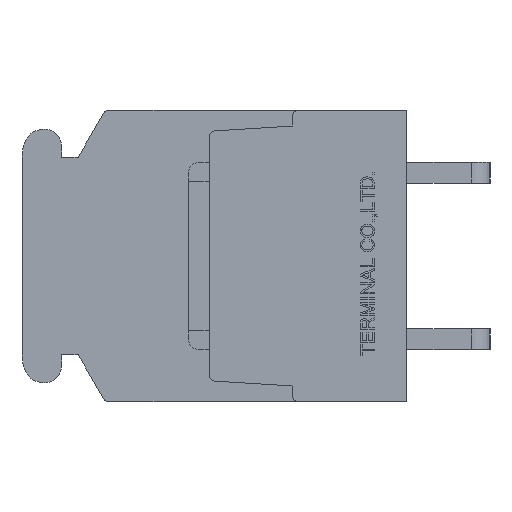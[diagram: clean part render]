
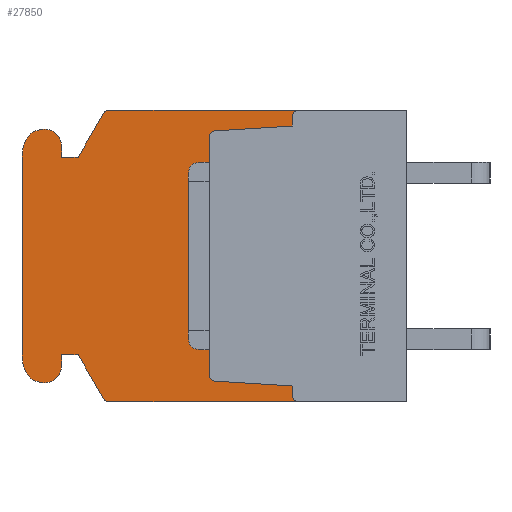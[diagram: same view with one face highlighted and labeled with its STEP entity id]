
A CAD part, left-side view. The second image highlights one B-rep face of the part: STEP entity #27850.
In plain terms, the highlighted planar face has unit normal (-1, 0, 0).
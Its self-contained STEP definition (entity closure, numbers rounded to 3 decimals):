
#519=CIRCLE('',#28262,0.3);
#520=CIRCLE('',#28266,0.3);
#521=CIRCLE('',#28268,0.3);
#522=CIRCLE('',#28272,0.3);
#1093=CIRCLE('',#29945,0.3);
#1094=CIRCLE('',#29946,0.8);
#1095=CIRCLE('',#29947,1.);
#1096=CIRCLE('',#29948,2.);
#1097=CIRCLE('',#29949,2.);
#1098=CIRCLE('',#29950,1.);
#1099=CIRCLE('',#29951,0.8);
#1100=CIRCLE('',#29952,0.3);
#1494=VERTEX_POINT('',#36367);
#1495=VERTEX_POINT('',#36368);
#1848=VERTEX_POINT('',#37889);
#1849=VERTEX_POINT('',#37893);
#1850=VERTEX_POINT('',#37897);
#1851=VERTEX_POINT('',#37901);
#1852=VERTEX_POINT('',#37905);
#1853=VERTEX_POINT('',#37906);
#1854=VERTEX_POINT('',#37911);
#1855=VERTEX_POINT('',#37915);
#3455=VERTEX_POINT('',#42810);
#3490=VERTEX_POINT('',#42917);
#3902=VERTEX_POINT('',#44206);
#3903=VERTEX_POINT('',#44208);
#3904=VERTEX_POINT('',#44210);
#3905=VERTEX_POINT('',#44212);
#3906=VERTEX_POINT('',#44214);
#3907=VERTEX_POINT('',#44216);
#3908=VERTEX_POINT('',#44218);
#3909=VERTEX_POINT('',#44220);
#3910=VERTEX_POINT('',#44222);
#3911=VERTEX_POINT('',#44224);
#3912=VERTEX_POINT('',#44226);
#3913=VERTEX_POINT('',#44228);
#3914=VERTEX_POINT('',#44230);
#3915=VERTEX_POINT('',#44232);
#3916=VERTEX_POINT('',#44234);
#3917=VERTEX_POINT('',#44236);
#4311=VECTOR('',#30205,1.);
#4720=VECTOR('',#30761,1.);
#4722=VECTOR('',#30764,1.);
#4727=VECTOR('',#30778,1.);
#4729=VECTOR('',#30781,1.);
#6385=VECTOR('',#34531,1.);
#6422=VECTOR('',#34626,1.);
#6939=VECTOR('',#35567,1.);
#6940=VECTOR('',#35568,1.);
#6941=VECTOR('',#35569,1.);
#6942=VECTOR('',#35572,1.);
#6943=VECTOR('',#35577,1.);
#6944=VECTOR('',#35582,1.);
#6945=VECTOR('',#35585,1.);
#6946=VECTOR('',#35586,1.);
#6947=VECTOR('',#35587,1.);
#7394=LINE('',#36366,#4311);
#7803=LINE('',#37892,#4720);
#7805=LINE('',#37896,#4722);
#7810=LINE('',#37910,#4727);
#7812=LINE('',#37914,#4729);
#9468=LINE('',#42811,#6385);
#9505=LINE('',#42916,#6422);
#10022=LINE('',#44207,#6939);
#10023=LINE('',#44209,#6940);
#10024=LINE('',#44211,#6941);
#10025=LINE('',#44215,#6942);
#10026=LINE('',#44221,#6943);
#10027=LINE('',#44227,#6944);
#10028=LINE('',#44231,#6945);
#10029=LINE('',#44233,#6946);
#10030=LINE('',#44235,#6947);
#10477=EDGE_CURVE('',#1494,#1495,#7394,.T.);
#10995=EDGE_CURVE('',#1848,#1494,#519,.T.);
#10997=EDGE_CURVE('',#1849,#1848,#7803,.T.);
#10999=EDGE_CURVE('',#1850,#1849,#7805,.T.);
#11001=EDGE_CURVE('',#1851,#1850,#520,.T.);
#11003=EDGE_CURVE('',#1852,#1853,#521,.T.);
#11006=EDGE_CURVE('',#1854,#1852,#7810,.T.);
#11008=EDGE_CURVE('',#1855,#1854,#7812,.T.);
#11010=EDGE_CURVE('',#1495,#1855,#522,.T.);
#13336=EDGE_CURVE('',#3455,#1853,#9468,.T.);
#13389=EDGE_CURVE('',#1851,#3490,#9505,.T.);
#14100=EDGE_CURVE('',#3902,#3455,#1093,.T.);
#14101=EDGE_CURVE('',#3903,#3902,#10022,.T.);
#14102=EDGE_CURVE('',#3904,#3903,#10023,.T.);
#14103=EDGE_CURVE('',#3905,#3904,#10024,.T.);
#14104=EDGE_CURVE('',#3906,#3905,#1094,.T.);
#14105=EDGE_CURVE('',#3907,#3906,#10025,.T.);
#14106=EDGE_CURVE('',#3908,#3907,#1095,.T.);
#14107=EDGE_CURVE('',#3909,#3908,#1096,.T.);
#14108=EDGE_CURVE('',#3910,#3909,#10026,.T.);
#14109=EDGE_CURVE('',#3911,#3910,#1097,.T.);
#14110=EDGE_CURVE('',#3912,#3911,#1098,.T.);
#14111=EDGE_CURVE('',#3913,#3912,#10027,.T.);
#14112=EDGE_CURVE('',#3914,#3913,#1099,.T.);
#14113=EDGE_CURVE('',#3915,#3914,#10028,.T.);
#14114=EDGE_CURVE('',#3916,#3915,#10029,.T.);
#14115=EDGE_CURVE('',#3917,#3916,#10030,.T.);
#14116=EDGE_CURVE('',#3490,#3917,#1100,.T.);
#21917=ORIENTED_EDGE('',*,*,#11003,.T.);
#21918=ORIENTED_EDGE('',*,*,#13336,.F.);
#21919=ORIENTED_EDGE('',*,*,#14100,.F.);
#21920=ORIENTED_EDGE('',*,*,#14101,.F.);
#21921=ORIENTED_EDGE('',*,*,#14102,.F.);
#21922=ORIENTED_EDGE('',*,*,#14103,.F.);
#21923=ORIENTED_EDGE('',*,*,#14104,.F.);
#21924=ORIENTED_EDGE('',*,*,#14105,.F.);
#21925=ORIENTED_EDGE('',*,*,#14106,.F.);
#21926=ORIENTED_EDGE('',*,*,#14107,.F.);
#21927=ORIENTED_EDGE('',*,*,#14108,.F.);
#21928=ORIENTED_EDGE('',*,*,#14109,.F.);
#21929=ORIENTED_EDGE('',*,*,#14110,.F.);
#21930=ORIENTED_EDGE('',*,*,#14111,.F.);
#21931=ORIENTED_EDGE('',*,*,#14112,.F.);
#21932=ORIENTED_EDGE('',*,*,#14113,.F.);
#21933=ORIENTED_EDGE('',*,*,#14114,.F.);
#21934=ORIENTED_EDGE('',*,*,#14115,.F.);
#21935=ORIENTED_EDGE('',*,*,#14116,.F.);
#21936=ORIENTED_EDGE('',*,*,#13389,.F.);
#21937=ORIENTED_EDGE('',*,*,#11001,.T.);
#21938=ORIENTED_EDGE('',*,*,#10999,.T.);
#21939=ORIENTED_EDGE('',*,*,#10997,.T.);
#21940=ORIENTED_EDGE('',*,*,#10995,.T.);
#21941=ORIENTED_EDGE('',*,*,#10477,.T.);
#21942=ORIENTED_EDGE('',*,*,#11010,.T.);
#21943=ORIENTED_EDGE('',*,*,#11008,.T.);
#21944=ORIENTED_EDGE('',*,*,#11006,.T.);
#24578=EDGE_LOOP('',(#21917,#21918,#21919,#21920,#21921,#21922,#21923,#21924,
#21925,#21926,#21927,#21928,#21929,#21930,#21931,#21932,#21933,#21934,#21935,
#21936,#21937,#21938,#21939,#21940,#21941,#21942,#21943,#21944));
#26278=FACE_BOUND('',#24578,.T.);
#27850=ADVANCED_FACE('',(#26278),#46840,.F.);
#28262=AXIS2_PLACEMENT_3D('',#37888,#30757,#30758);
#28266=AXIS2_PLACEMENT_3D('',#37900,#30768,#30769);
#28268=AXIS2_PLACEMENT_3D('',#37904,#30773,#30774);
#28272=AXIS2_PLACEMENT_3D('',#37918,#30785,#30786);
#29944=AXIS2_PLACEMENT_3D('',#44204,#35564,$);
#29945=AXIS2_PLACEMENT_3D('',#44205,#35565,#35566);
#29946=AXIS2_PLACEMENT_3D('',#44213,#35570,#35571);
#29947=AXIS2_PLACEMENT_3D('',#44217,#35573,#35574);
#29948=AXIS2_PLACEMENT_3D('',#44219,#35575,#35576);
#29949=AXIS2_PLACEMENT_3D('',#44223,#35578,#35579);
#29950=AXIS2_PLACEMENT_3D('',#44225,#35580,#35581);
#29951=AXIS2_PLACEMENT_3D('',#44229,#35583,#35584);
#29952=AXIS2_PLACEMENT_3D('',#44237,#35588,#35589);
#30205=DIRECTION('',(0.,0.,1.));
#30757=DIRECTION('',(1.,0.,0.));
#30758=DIRECTION('',(0.,0.,-0.3));
#30761=DIRECTION('',(0.,0.998,0.062));
#30764=DIRECTION('',(0.,0.,1.));
#30768=DIRECTION('',(1.,0.,0.));
#30769=DIRECTION('',(0.,0.,-0.3));
#30773=DIRECTION('',(1.,0.,0.));
#30774=DIRECTION('',(0.,0.,-0.3));
#30778=DIRECTION('',(0.,0.,1.));
#30781=DIRECTION('',(0.,-0.998,0.062));
#30785=DIRECTION('',(1.,0.,0.));
#30786=DIRECTION('',(0.,0.,-0.3));
#34531=DIRECTION('',(0.,-1.,0.));
#34626=DIRECTION('',(0.,1.,0.));
#35564=DIRECTION('',(1.,0.,0.));
#35565=DIRECTION('',(1.,0.,0.));
#35566=DIRECTION('',(0.,0.,-0.3));
#35567=DIRECTION('',(0.,-0.5,0.866));
#35568=DIRECTION('',(0.,-1.,0.));
#35569=DIRECTION('',(0.,0.,-1.));
#35570=DIRECTION('',(1.,0.,0.));
#35571=DIRECTION('',(0.,0.,-0.8));
#35572=DIRECTION('',(0.,-1.,0.));
#35573=DIRECTION('',(1.,0.,0.));
#35574=DIRECTION('',(0.,0.,-1.));
#35575=DIRECTION('',(1.,0.,0.));
#35576=DIRECTION('',(0.,0.,-2.));
#35577=DIRECTION('',(0.,0.,1.));
#35578=DIRECTION('',(1.,0.,0.));
#35579=DIRECTION('',(0.,0.,-2.));
#35580=DIRECTION('',(1.,0.,0.));
#35581=DIRECTION('',(0.,0.,-1.));
#35582=DIRECTION('',(0.,1.,0.));
#35583=DIRECTION('',(1.,0.,0.));
#35584=DIRECTION('',(0.,0.,-0.8));
#35585=DIRECTION('',(0.,0.,-1.));
#35586=DIRECTION('',(0.,1.,0.));
#35587=DIRECTION('',(0.,0.5,0.866));
#35588=DIRECTION('',(1.,0.,0.));
#35589=DIRECTION('',(0.,0.,-0.3));
#36366=CARTESIAN_POINT('',(8.15,9.5,0.));
#36367=CARTESIAN_POINT('',(8.15,9.5,-5.718));
#36368=CARTESIAN_POINT('',(8.15,9.5,5.718));
#37888=CARTESIAN_POINT('',(8.15,9.2,-5.718));
#37889=CARTESIAN_POINT('',(8.15,9.219,-6.018));
#37892=CARTESIAN_POINT('',(8.15,8.522,-6.061));
#37893=CARTESIAN_POINT('',(8.15,5.5,-6.25));
#37896=CARTESIAN_POINT('',(8.15,5.5,-3.237));
#37897=CARTESIAN_POINT('',(8.15,5.5,-6.7));
#37900=CARTESIAN_POINT('',(8.15,5.2,-6.7));
#37901=CARTESIAN_POINT('',(8.15,5.2,-7.));
#37904=CARTESIAN_POINT('',(8.15,5.2,6.7));
#37905=CARTESIAN_POINT('',(8.15,5.5,6.7));
#37906=CARTESIAN_POINT('',(8.15,5.2,7.));
#37910=CARTESIAN_POINT('',(8.15,5.5,3.238));
#37911=CARTESIAN_POINT('',(8.15,5.5,6.25));
#37914=CARTESIAN_POINT('',(8.15,8.522,6.061));
#37915=CARTESIAN_POINT('',(8.15,9.219,6.018));
#37918=CARTESIAN_POINT('',(8.15,9.2,5.718));
#42810=CARTESIAN_POINT('',(8.15,14.327,7.));
#42811=CARTESIAN_POINT('',(8.15,14.327,7.));
#42916=CARTESIAN_POINT('',(8.15,0.,-7.));
#42917=CARTESIAN_POINT('',(8.15,14.327,-7.));
#44204=CARTESIAN_POINT('',(8.15,9.311,0.));
#44205=CARTESIAN_POINT('',(8.15,14.327,6.7));
#44206=CARTESIAN_POINT('',(8.15,14.587,6.85));
#44207=CARTESIAN_POINT('',(8.15,15.8,4.75));
#44208=CARTESIAN_POINT('',(8.15,15.8,4.75));
#44209=CARTESIAN_POINT('',(8.15,16.6,4.75));
#44210=CARTESIAN_POINT('',(8.15,16.6,4.75));
#44211=CARTESIAN_POINT('',(8.15,16.6,5.3));
#44212=CARTESIAN_POINT('',(8.15,16.6,5.3));
#44213=CARTESIAN_POINT('',(8.15,17.4,5.3));
#44214=CARTESIAN_POINT('',(8.15,17.4,6.1));
#44215=CARTESIAN_POINT('',(8.15,17.437,6.1));
#44216=CARTESIAN_POINT('',(8.15,17.437,6.1));
#44217=CARTESIAN_POINT('',(8.15,17.437,5.1));
#44218=CARTESIAN_POINT('',(8.15,18.373,5.45));
#44219=CARTESIAN_POINT('',(8.15,16.5,4.75));
#44220=CARTESIAN_POINT('',(8.15,18.5,4.75));
#44221=CARTESIAN_POINT('',(8.15,18.5,-4.75));
#44222=CARTESIAN_POINT('',(8.15,18.5,-4.75));
#44223=CARTESIAN_POINT('',(8.15,16.5,-4.75));
#44224=CARTESIAN_POINT('',(8.15,18.373,-5.45));
#44225=CARTESIAN_POINT('',(8.15,17.437,-5.1));
#44226=CARTESIAN_POINT('',(8.15,17.437,-6.1));
#44227=CARTESIAN_POINT('',(8.15,17.4,-6.1));
#44228=CARTESIAN_POINT('',(8.15,17.4,-6.1));
#44229=CARTESIAN_POINT('',(8.15,17.4,-5.3));
#44230=CARTESIAN_POINT('',(8.15,16.6,-5.3));
#44231=CARTESIAN_POINT('',(8.15,16.6,-4.75));
#44232=CARTESIAN_POINT('',(8.15,16.6,-4.75));
#44233=CARTESIAN_POINT('',(8.15,15.8,-4.75));
#44234=CARTESIAN_POINT('',(8.15,15.8,-4.75));
#44235=CARTESIAN_POINT('',(8.15,14.587,-6.85));
#44236=CARTESIAN_POINT('',(8.15,14.587,-6.85));
#44237=CARTESIAN_POINT('',(8.15,14.327,-6.7));
#46840=PLANE('',#29944);
